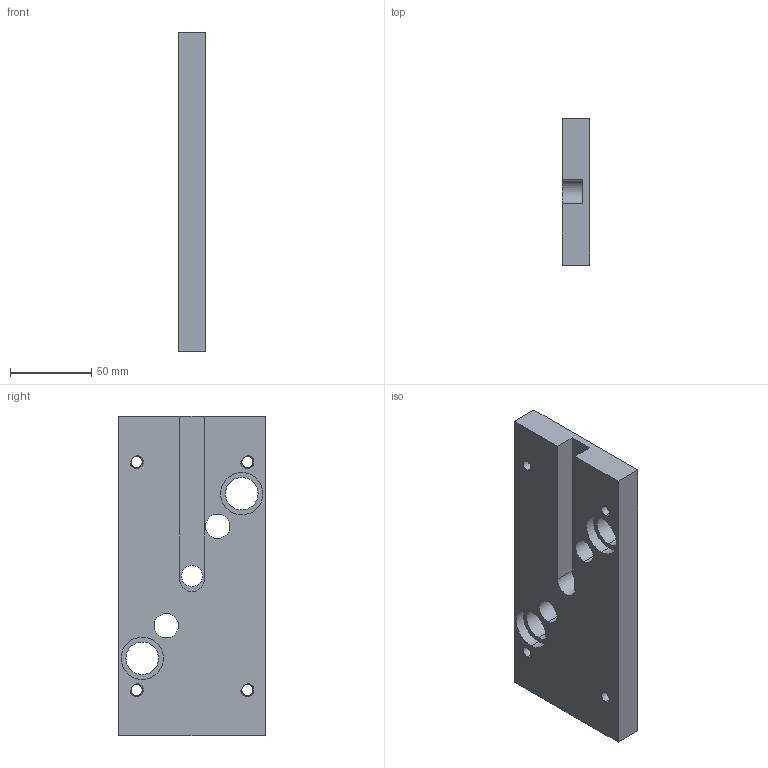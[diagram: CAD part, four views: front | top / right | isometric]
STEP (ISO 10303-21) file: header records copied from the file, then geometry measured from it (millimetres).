
FILE_DESCRIPTION (( 'STEP AP203' ), '1' );
FILE_NAME ('010 Plaque porte Ejection.STEP', '2021-10-27T18:21:34', ( '' ), ( '' ), 'SwSTEP 2.0', 'SolidWorks 2019', '' );
FILE_SCHEMA (( 'CONFIG_CONTROL_DESIGN' ));
Length unit declared in the file: millimetre
Products named in the file (1): 010 Plaque porte Ejection
Bounding box: 17 x 90 x 196 mm (x, y, z)
Volume: 257364.6 mm3; surface area: 53261.2 mm2
Topology: 1 solids, 1 shells, 58 faces, 162 edges, 108 vertices
Faces by surface type: cylinder 39, plane 19
Entity records: 2033 total; most frequent: DIRECTION 358, CARTESIAN_POINT 329, ORIENTED_EDGE 324, EDGE_CURVE 162, AXIS2_PLACEMENT_3D 137, VERTEX_POINT 108, EDGE_LOOP 86, VECTOR 84
